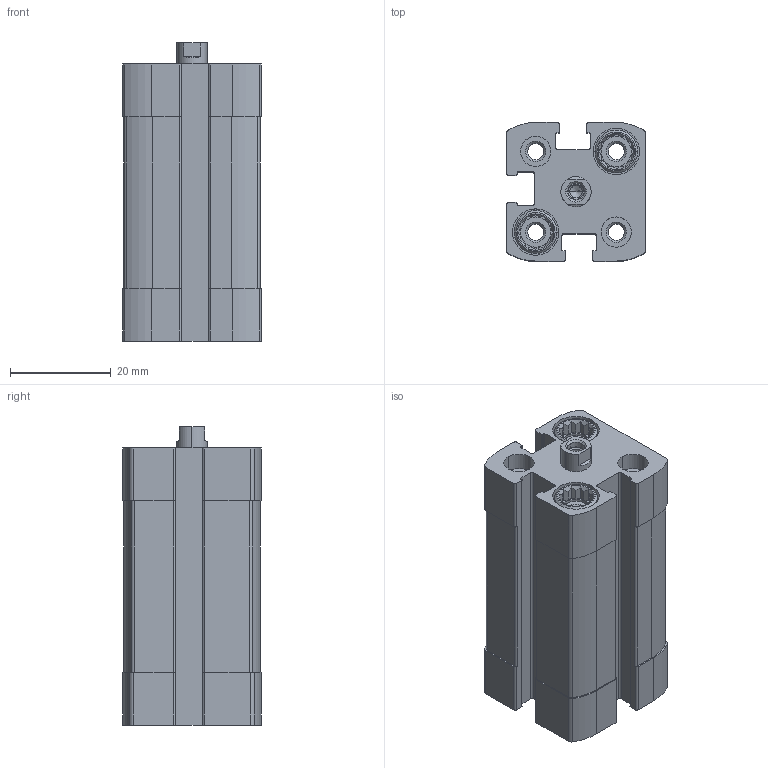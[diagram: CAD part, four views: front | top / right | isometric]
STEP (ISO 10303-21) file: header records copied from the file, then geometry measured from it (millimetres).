
FILE_DESCRIPTION (( 'STEP AP203' ), '1' );
FILE_NAME ('CCN12-20F.STEP', '2017-03-23T18:03:01', ( '' ), ( '' ), 'SwSTEP 2.0', 'SolidWorks 2016', '' );
FILE_SCHEMA (( 'CONFIG_CONTROL_DESIGN' ));
Length unit declared in the file: millimetre
Products named in the file (3): CCN12-20F_(KS); CCN12-20F; CCN12-20F---(Z)
Assembly tree (2 placements, depth 2):
  CCN12-20F
    CCN12-20F---(Z)
    CCN12-20F_(KS)
Bounding box: 27.5 x 27.5 x 59.2 mm (x, y, z)
Volume: 29352.7 mm3; surface area: 15751.3 mm2
Topology: 2 solids, 2 shells, 363 faces, 948 edges, 623 vertices
Faces by surface type: plane 187, cylinder 134, cone 42
Entity records: 11601 total; most frequent: CARTESIAN_POINT 2231, DIRECTION 1912, ORIENTED_EDGE 1892, EDGE_CURVE 946, AXIS2_PLACEMENT_3D 696, VERTEX_POINT 623, LINE 520, VECTOR 520
